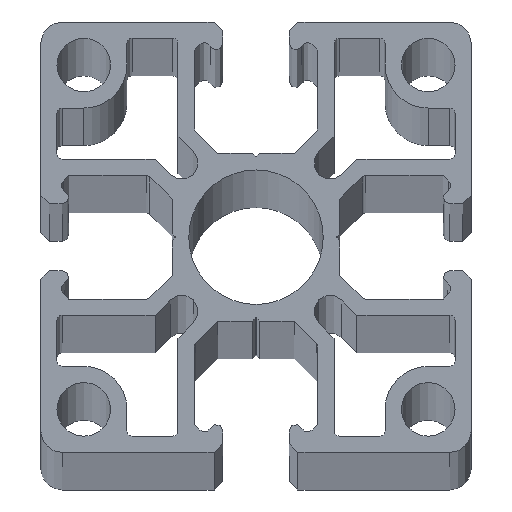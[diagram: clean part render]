
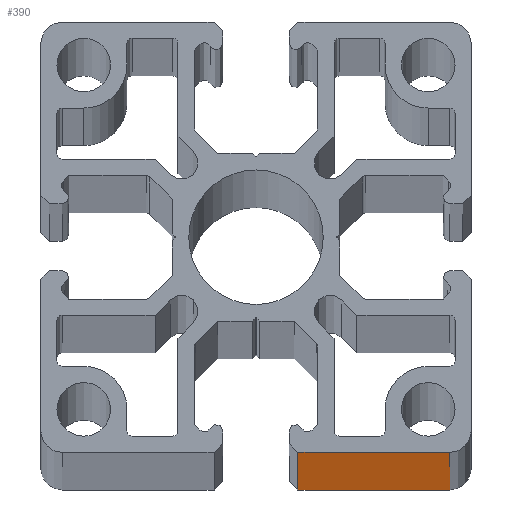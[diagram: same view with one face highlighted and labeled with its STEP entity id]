
A CAD part, top view. The second image highlights one B-rep face of the part: STEP entity #390.
In plain terms, the highlighted planar face has unit normal (0, -1, 0).
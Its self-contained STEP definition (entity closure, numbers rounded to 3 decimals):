
#390=ADVANCED_FACE('',(#830),#831,.F.);
#830=FACE_OUTER_BOUND('',#1369,.T.);
#831=PLANE('',#1370);
#1369=EDGE_LOOP('',(#2238,#2239,#2240,#2241));
#1370=AXIS2_PLACEMENT_3D('',#2242,#2243,#2244);
#2238=ORIENTED_EDGE('',*,*,#3626,.F.);
#2239=ORIENTED_EDGE('',*,*,#3627,.T.);
#2240=ORIENTED_EDGE('',*,*,#3628,.T.);
#2241=ORIENTED_EDGE('',*,*,#3629,.F.);
#2242=CARTESIAN_POINT('',(-18.0,-20.0,500.0));
#2243=DIRECTION('',(-0.0,1.0,0.0));
#2244=DIRECTION('',(1.0,0.0,0.0));
#3626=EDGE_CURVE('',#4448,#4449,#4450,.T.);
#3627=EDGE_CURVE('',#4448,#4451,#4452,.T.);
#3628=EDGE_CURVE('',#4451,#4453,#4454,.T.);
#3629=EDGE_CURVE('',#4449,#4453,#4455,.T.);
#4448=VERTEX_POINT('',#5579);
#4449=VERTEX_POINT('',#5580);
#4450=LINE('',#5581,#5582);
#4451=VERTEX_POINT('',#5583);
#4452=LINE('',#5584,#5585);
#4453=VERTEX_POINT('',#5586);
#4454=LINE('',#5587,#5588);
#4455=LINE('',#5589,#5590);
#5579=CARTESIAN_POINT('',(3.9,-20.0,1500.0));
#5580=CARTESIAN_POINT('',(18.0,-20.0,1500.0));
#5581=CARTESIAN_POINT('',(3.1,-20.0,1500.0));
#5582=VECTOR('',#6694,1.0);
#5583=CARTESIAN_POINT('',(3.9,-20.0,-500.0));
#5584=CARTESIAN_POINT('',(3.9,-20.0,500.0));
#5585=VECTOR('',#6695,1.0);
#5586=CARTESIAN_POINT('',(18.0,-20.0,-500.0));
#5587=CARTESIAN_POINT('',(3.1,-20.0,-500.0));
#5588=VECTOR('',#6696,1.0);
#5589=CARTESIAN_POINT('',(18.0,-20.0,500.0));
#5590=VECTOR('',#6697,1.0);
#6694=DIRECTION('',(1.0,0.0,0.0));
#6695=DIRECTION('',(0.0,0.0,-1.0));
#6696=DIRECTION('',(1.0,0.0,0.0));
#6697=DIRECTION('',(0.0,0.0,-1.0));
